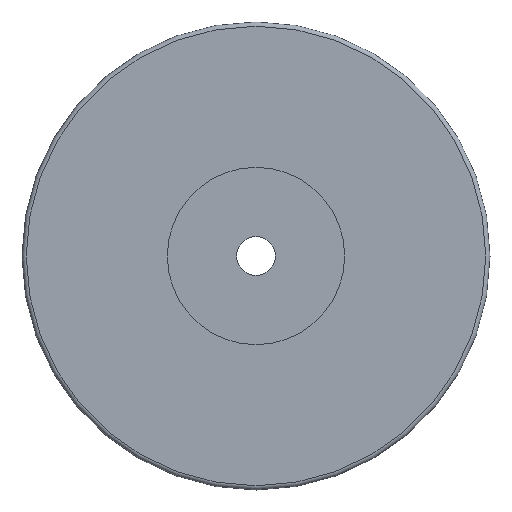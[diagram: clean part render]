
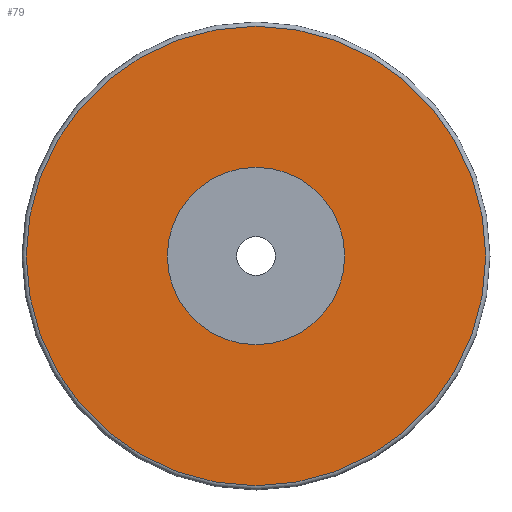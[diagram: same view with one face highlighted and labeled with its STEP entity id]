
A CAD part, front view. The second image highlights one B-rep face of the part: STEP entity #79.
In plain terms, the highlighted planar face has unit normal (0, -1, 0).
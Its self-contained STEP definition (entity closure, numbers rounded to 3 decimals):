
#79 = ADVANCED_FACE( '', ( #98, #99 ), #100, .T. );
#98 = FACE_OUTER_BOUND( '', #128, .T. );
#99 = FACE_BOUND( '', #129, .T. );
#100 = PLANE( '', #130 );
#128 = EDGE_LOOP( '', ( #166 ) );
#129 = EDGE_LOOP( '', ( #167 ) );
#130 = AXIS2_PLACEMENT_3D( '', #168, #169, #170 );
#166 = ORIENTED_EDGE( '', *, *, #201, .T. );
#167 = ORIENTED_EDGE( '', *, *, #200, .F. );
#168 = CARTESIAN_POINT( '', ( 12.5, 0., 0. ) );
#169 = DIRECTION( '', ( 0., -1., 0. ) );
#170 = DIRECTION( '', ( 0., 0., -1. ) );
#200 = EDGE_CURVE( '', #214, #214, #215, .T. );
#201 = EDGE_CURVE( '', #216, #216, #217, .T. );
#214 = VERTEX_POINT( '', #234 );
#215 = CIRCLE( '', #235, 12.5 );
#216 = VERTEX_POINT( '', #236 );
#217 = CIRCLE( '', #237, 32.4 );
#234 = CARTESIAN_POINT( '', ( 0., 0., -12.5 ) );
#235 = AXIS2_PLACEMENT_3D( '', #258, #259, #260 );
#236 = CARTESIAN_POINT( '', ( 0., 0., -32.4 ) );
#237 = AXIS2_PLACEMENT_3D( '', #261, #262, #263 );
#258 = CARTESIAN_POINT( '', ( 0., 0., 0. ) );
#259 = DIRECTION( '', ( 0., -1., 0. ) );
#260 = DIRECTION( '', ( 0., 0., -1. ) );
#261 = CARTESIAN_POINT( '', ( 0., 0., 0. ) );
#262 = DIRECTION( '', ( 0., -1., 0. ) );
#263 = DIRECTION( '', ( 0., 0., -1. ) );
